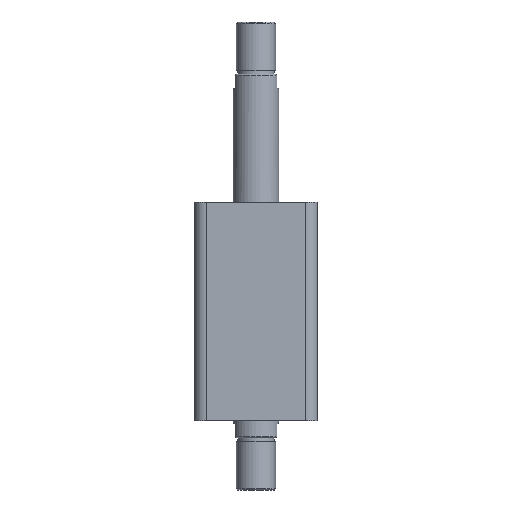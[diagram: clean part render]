
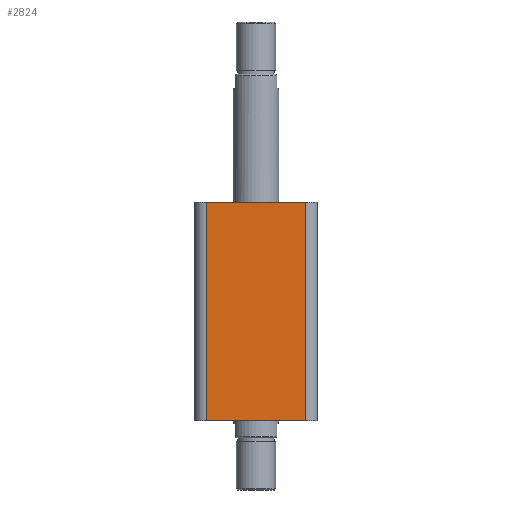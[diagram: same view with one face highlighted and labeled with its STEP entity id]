
A CAD part, front view. The second image highlights one B-rep face of the part: STEP entity #2824.
In plain terms, the highlighted planar face has unit normal (0, -1, 0).
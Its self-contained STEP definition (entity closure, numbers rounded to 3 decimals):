
#290 = FACE_OUTER_BOUND ( 'NONE', #1427, .T. ) ;
#697 = CARTESIAN_POINT ( 'NONE',  ( -47., -47., 167. ) ) ;
#699 = PLANE ( 'NONE',  #1073 ) ;
#701 = DIRECTION ( 'NONE',  ( 0., 1., 0. ) ) ;
#702 = DIRECTION ( 'NONE',  ( 0., 0., 1. ) ) ;
#850 = CARTESIAN_POINT ( 'NONE',  ( -38., -47., 167. ) ) ;
#939 = CARTESIAN_POINT ( 'NONE',  ( 38., -47., 167. ) ) ;
#940 = CARTESIAN_POINT ( 'NONE',  ( -38., -47., 0. ) ) ;
#941 = CARTESIAN_POINT ( 'NONE',  ( 38., -47., 0. ) ) ;
#1073 = AXIS2_PLACEMENT_3D ( 'NONE', #697, #701, #702 ) ;
#1427 = EDGE_LOOP ( 'NONE', ( #3425, #3426, #3427, #3428 ) ) ;
#1724 = LINE ( 'NONE', #1990, #1737 ) ;
#1730 = LINE ( 'NONE', #2000, #1733 ) ;
#1732 = LINE ( 'NONE', #2002, #1735 ) ;
#1733 = VECTOR ( 'NONE', #2001, 1000. ) ;
#1735 = VECTOR ( 'NONE', #2003, 1000. ) ;
#1736 = LINE ( 'NONE', #2005, #1739 ) ;
#1737 = VECTOR ( 'NONE', #2004, 1000. ) ;
#1739 = VECTOR ( 'NONE', #2006, 1000. ) ;
#1990 = CARTESIAN_POINT ( 'NONE',  ( -47., -47., 0. ) ) ;
#2000 = CARTESIAN_POINT ( 'NONE',  ( -47., -47., 167. ) ) ;
#2001 = DIRECTION ( 'NONE',  ( 1., 0., 0. ) ) ;
#2002 = CARTESIAN_POINT ( 'NONE',  ( -38., -47., 167. ) ) ;
#2003 = DIRECTION ( 'NONE',  ( 0., 0., -1. ) ) ;
#2004 = DIRECTION ( 'NONE',  ( 1., 0., 0. ) ) ;
#2005 = CARTESIAN_POINT ( 'NONE',  ( 38., -47., 167. ) ) ;
#2006 = DIRECTION ( 'NONE',  ( 0., 0., 1. ) ) ;
#2490 = EDGE_CURVE ( 'NONE', #3068, #3157, #1730, .T. ) ;
#2491 = EDGE_CURVE ( 'NONE', #3068, #3158, #1732, .T. ) ;
#2492 = EDGE_CURVE ( 'NONE', #3158, #3159, #1724, .T. ) ;
#2493 = EDGE_CURVE ( 'NONE', #3159, #3157, #1736, .T. ) ;
#2824 = ADVANCED_FACE ( 'NONE', ( #290 ), #699, .F. ) ;
#3068 = VERTEX_POINT ( 'NONE', #850 ) ;
#3157 = VERTEX_POINT ( 'NONE', #939 ) ;
#3158 = VERTEX_POINT ( 'NONE', #940 ) ;
#3159 = VERTEX_POINT ( 'NONE', #941 ) ;
#3425 = ORIENTED_EDGE ( 'NONE', *, *, #2490, .F. ) ;
#3426 = ORIENTED_EDGE ( 'NONE', *, *, #2491, .T. ) ;
#3427 = ORIENTED_EDGE ( 'NONE', *, *, #2492, .T. ) ;
#3428 = ORIENTED_EDGE ( 'NONE', *, *, #2493, .T. ) ;
